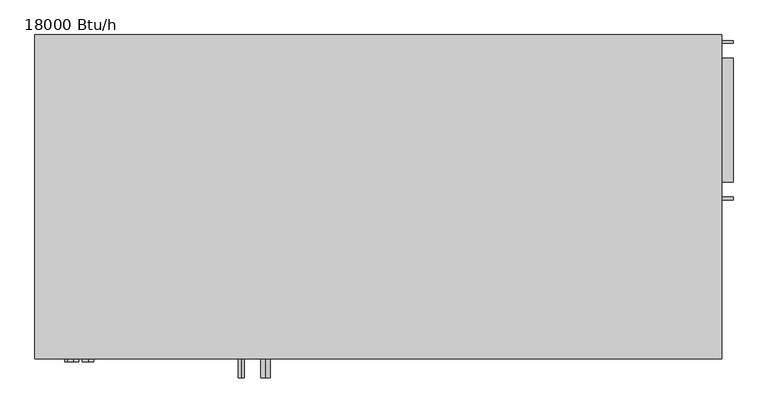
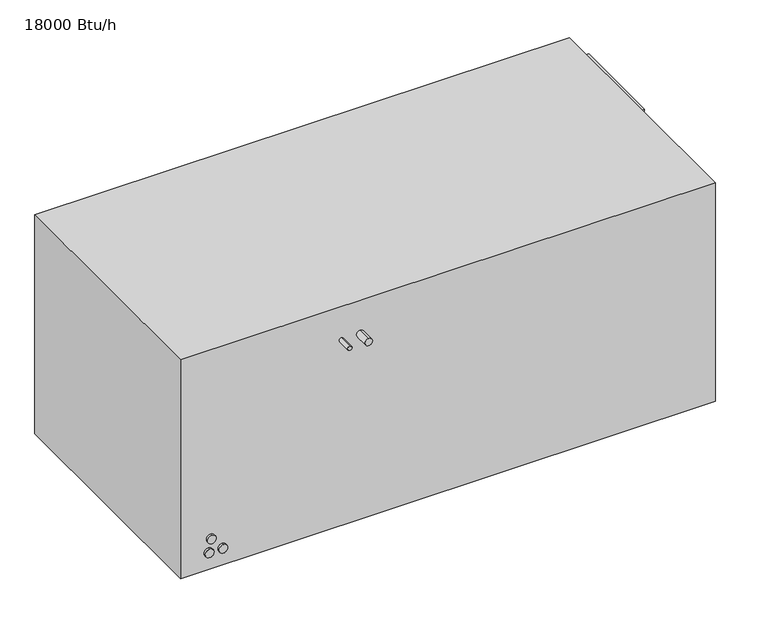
"""IFC4 building model written with IfcOpenShell, lengths in millimetres: proxy geometry, Lennox-VRF-Concealed_Vertical_Air_Handler-VVCA-2P_Series : 18000 Btu/h."""

import ifcopenshell
import ifcopenshell.guid

model = None  # the IFC model being written
_history = None  # IfcOwnerHistory: only IFC2X3 demands one
_inside = {}  # id of a spatial element -> (the spatial element, [elements in it])
_under = {}  # id of a project, library or spatial element -> (it, [spatial elements below it])
_declared = {}  # id of a project -> (the project, [libraries it declares])
_typed = {}  # id of a type object -> (the type object, [elements of that type])
_made_of = {}  # id of a material, layer set ... -> (it, [elements and type objects made of it])


def new_model(schema):
    """Start an empty IFC model of exactly this schema.

    Asked for "IFC4X3", IfcOpenShell would pick the latest addendum, in which some entities
    have other attributes; the version numbers below select the first issue.
    IFC2X3 requires an IfcOwnerHistory on every rooted entity: one is made here for all.
    """
    global model, _history
    if schema == "IFC4X3":
        model = ifcopenshell.file(schema_version=(4, 3, 0, 0))
    else:
        model = ifcopenshell.file(schema=schema)
    _inside.clear()
    _under.clear()
    _declared.clear()
    _typed.clear()
    _made_of.clear()
    _history = None
    if model.schema == "IFC2X3":
        org = make("IfcOrganization", Name="unknown")
        user = make(
            "IfcPersonAndOrganization",
            ThePerson=make("IfcPerson", FamilyName="unknown"),
            TheOrganization=org,
        )
        app = make(
            "IfcApplication",
            ApplicationDeveloper=org,
            Version="unknown",
            ApplicationFullName="unknown",
            ApplicationIdentifier="unknown",
        )
        _history = make(
            "IfcOwnerHistory",
            OwningUser=user,
            OwningApplication=app,
            ChangeAction="ADDED",
            CreationDate=0,
        )
    return model


def make(cls, **values):
    """One entity of the class cls with the attributes given. An attribute that is None is left unset."""
    return model.create_entity(
        cls, **{name: value for name, value in values.items() if value is not None}
    )


def rooted(cls, **values):
    """An entity with a GlobalId (a new one), such as an element, a storey or a relation."""
    return make(cls, GlobalId=ifcopenshell.guid.new(), OwnerHistory=_history, **values)


def si_unit(unit_type, name, prefix=None):
    """IfcSIUnit, for example si_unit("LENGTHUNIT", "METRE", prefix="MILLI")."""
    return make("IfcSIUnit", UnitType=unit_type, Prefix=prefix, Name=name)


def assignment(units):
    """IfcUnitAssignment: the units of a project."""
    return None if units is None else make("IfcUnitAssignment", Units=units)


def point(xyz):
    """IfcCartesianPoint."""
    return None if xyz is None else make("IfcCartesianPoint", Coordinates=xyz)


def direction(xyz):
    """IfcDirection."""
    return None if xyz is None else make("IfcDirection", DirectionRatios=xyz)


def frame(location, z_axis=None, x_axis=None):
    """IfcAxis2Placement3D, a coordinate frame: its origin and axes. An axis left out is left unset."""
    return make(
        "IfcAxis2Placement3D",
        Location=point(location),
        Axis=direction(z_axis),
        RefDirection=direction(x_axis),
    )


def frame_2d(location, x_axis=None):
    """IfcAxis2Placement2D, a coordinate frame in the plane: its origin and x axis."""
    return make(
        "IfcAxis2Placement2D", Location=point(location), RefDirection=direction(x_axis)
    )


def origin():
    """The frame at (0, 0, 0) with its axes left unset."""
    return frame((0.0, 0.0, 0.0))


def place(relative_to, where):
    """IfcLocalPlacement: puts the frame where relative to a parent placement (None: the world)."""
    return make(
        "IfcLocalPlacement", PlacementRelTo=relative_to, RelativePlacement=where
    )


def context(
    kind, dimensions, precision=None, world=None, true_north=None, identifier=None
):
    """IfcGeometricRepresentationContext, for example the 3D "Model" context."""
    return make(
        "IfcGeometricRepresentationContext",
        ContextIdentifier=identifier,
        ContextType=kind,
        CoordinateSpaceDimension=dimensions,
        Precision=precision,
        WorldCoordinateSystem=world,
        TrueNorth=true_north,
    )


def project(units=None, contexts=None):
    """IfcProject with its units and contexts."""
    return rooted(
        "IfcProject",
        Name="project",
        RepresentationContexts=contexts,
        UnitsInContext=assignment(units),
    )


def spatial(cls, under=None, at=None, **own):
    """A site, building, storey or space (cls), placed at a placement, below another one or the project."""
    s = rooted(cls, ObjectPlacement=at, **own)
    if under is not None:
        _under.setdefault(under.id(), (under, []))[1].append(s)
    return s


def polyline(points):
    """IfcPolyline through the points."""
    return make("IfcPolyline", Points=[point(p) for p in points])


def circle_curve(where, radius):
    """IfcCircle in the frame where."""
    return make("IfcCircle", Position=where, Radius=radius)


def trimmed(basis, trim1, trim2, sense, master):
    """IfcTrimmedCurve: the piece of a basis curve between two trims."""
    return make(
        "IfcTrimmedCurve",
        BasisCurve=basis,
        Trim1=trim1,
        Trim2=trim2,
        SenseAgreement=sense,
        MasterRepresentation=master,
    )


def segment(curve, same_sense, transition):
    """IfcCompositeCurveSegment."""
    return make(
        "IfcCompositeCurveSegment",
        Transition=transition,
        SameSense=same_sense,
        ParentCurve=curve,
    )


def composite_curve(segments, self_intersect=None):
    """IfcCompositeCurve: segments joined end to end."""
    return make("IfcCompositeCurve", Segments=segments, SelfIntersect=self_intersect)


def outline(outer, holes=None, kind="AREA"):
    """IfcArbitraryClosedProfileDef: a profile drawn as a closed curve; with holes, ...WithVoids."""
    if holes is None:
        return make("IfcArbitraryClosedProfileDef", ProfileType=kind, OuterCurve=outer)
    return make(
        "IfcArbitraryProfileDefWithVoids",
        ProfileType=kind,
        OuterCurve=outer,
        InnerCurves=holes,
    )


def extrude(swept, where, along, depth):
    """IfcExtrudedAreaSolid: the profile swept, set in the frame where, extruded along a direction by depth."""
    return make(
        "IfcExtrudedAreaSolid",
        SweptArea=swept,
        Position=where,
        ExtrudedDirection=direction(along),
        Depth=depth,
    )


def faces_of(points, faces, orient=None, outer=None):
    """IfcFace entities. A face is a list of loops; a loop is a list of indices into points, from 0.

    orient and outer hold one flag for each loop. By default every Orientation is true, the
    first loop of a face is its IfcFaceOuterBound and the others are IfcFaceBound.
    """
    made = []
    for i, loops in enumerate(faces):
        bounds = []
        for j, loop in enumerate(loops):
            is_outer = j == 0 if outer is None else outer[i][j]
            bounds.append(
                make(
                    "IfcFaceOuterBound" if is_outer else "IfcFaceBound",
                    Bound=make("IfcPolyLoop", Polygon=[points[k] for k in loop]),
                    Orientation=True if orient is None else orient[i][j],
                )
            )
        made.append(make("IfcFace", Bounds=bounds))
    return made


def faceted_brep(points, faces, orient=None, outer=None, voids=None):
    """IfcFacetedBrep: a solid bounded by flat faces; with voids (closed shells), ...WithVoids."""
    shared = [point(p) for p in points]
    hull = make("IfcClosedShell", CfsFaces=faces_of(shared, faces, orient, outer))
    if voids is None:
        return make("IfcFacetedBrep", Outer=hull)
    return make(
        "IfcFacetedBrepWithVoids",
        Outer=hull,
        Voids=[
            make(cls, CfsFaces=faces_of(shared, fs, o, b)) for cls, fs, o, b in voids
        ],
    )


def shape(context_of_items, identifier, shape_type, items):
    """IfcShapeRepresentation: the items that make up one representation, for example the "Body"."""
    return make(
        "IfcShapeRepresentation",
        ContextOfItems=context_of_items,
        RepresentationIdentifier=identifier,
        RepresentationType=shape_type,
        Items=items,
    )


def source(mapping_origin, context_of_items, identifier, shape_type, items):
    """IfcRepresentationMap: a shape defined once, which mapped items show again and again."""
    return make(
        "IfcRepresentationMap",
        MappingOrigin=mapping_origin,
        MappedRepresentation=shape(context_of_items, identifier, shape_type, items),
    )


def transform(
    local_origin,
    x_axis=None,
    y_axis=None,
    z_axis=None,
    scale=None,
    scale2=None,
    scale3=None,
    uniform=True,
):
    """IfcCartesianTransformationOperator3D, or its non-uniform kind. x_axis, y_axis, z_axis: its Axis1, 2, 3."""
    if uniform:
        return make(
            "IfcCartesianTransformationOperator3D",
            Axis1=direction(x_axis),
            Axis2=direction(y_axis),
            LocalOrigin=point(local_origin),
            Scale=scale,
            Axis3=direction(z_axis),
        )
    return make(
        "IfcCartesianTransformationOperator3DnonUniform",
        Axis1=direction(x_axis),
        Axis2=direction(y_axis),
        LocalOrigin=point(local_origin),
        Scale=scale,
        Axis3=direction(z_axis),
        Scale2=scale2,
        Scale3=scale3,
    )


def mapped(mapping_source, mapping_target):
    """IfcMappedItem: shows the shape of a source again, moved by a transform."""
    return make(
        "IfcMappedItem", MappingSource=mapping_source, MappingTarget=mapping_target
    )


def made_of(thing, what):
    """Note that an element or type object is made of a material, layer set ...; save() writes the relation."""
    if what is not None:
        _made_of.setdefault(what.id(), (what, []))[1].append(thing)
    return thing


def element(
    cls,
    number,
    at=None,
    inside=None,
    cuts=None,
    type_object=None,
    material=None,
    context=None,
    identifier="Body",
    shape_type=None,
    held_by="IfcProductDefinitionShape",
    body=None,
    shapes=None,
    **own,
):
    """One element of the class cls, such as IfcWall. Its Tag is "e" and its number.

    at: its placement. inside: the storey or other place that contains it. cuts: it is an
    opening in that element (IfcRelVoidsElement). A single representation is given by context,
    identifier, shape_type and body (its items); several are given by shapes. held_by: the class
    of the entity that holds the representations. save() writes the other relations.
    """
    e = rooted(cls, Tag="e%d" % number, ObjectPlacement=at, **own)
    if body is not None:
        shapes = [shape(context, identifier, shape_type, body)]
    if shapes is not None:
        e.Representation = make(held_by, Representations=shapes)
    if inside is not None:
        _inside.setdefault(inside.id(), (inside, []))[1].append(e)
    if cuts is not None:
        rooted(
            "IfcRelVoidsElement", RelatingBuildingElement=cuts, RelatedOpeningElement=e
        )
    if type_object is not None:
        _typed.setdefault(type_object.id(), (type_object, []))[1].append(e)
    return made_of(e, material)


def aggregate(whole, parts):
    """IfcRelAggregates: a whole, such as a stair, and the parts it consists of."""
    return rooted("IfcRelAggregates", RelatingObject=whole, RelatedObjects=parts)


def save(model, path):
    """Write the relations noted so far, then the file.

    IfcRelAggregates (storeys below a building ...), IfcRelContainedInSpatialStructure (elements
    in a storey), IfcRelDefinesByType, IfcRelAssociatesMaterial and IfcRelDeclares: one each for
    every whole, place, type object, material and project.
    """
    for whole, parts in _under.values():
        aggregate(whole, parts)
    for where, things in _inside.values():
        rooted(
            "IfcRelContainedInSpatialStructure",
            RelatedElements=things,
            RelatingStructure=where,
        )
    for kind, things in _typed.values():
        rooted("IfcRelDefinesByType", RelatedObjects=things, RelatingType=kind)
    for what, things in _made_of.values():
        rooted("IfcRelAssociatesMaterial", RelatedObjects=things, RelatingMaterial=what)
    for by, libraries in _declared.values():
        rooted("IfcRelDeclares", RelatingContext=by, RelatedDefinitions=libraries)
    model.write(path)


def proxy_18000_btu_h_5de70b9d(model_context):
    return source(origin(), model_context, "Body", "SolidModel", [
        extrude(outline(composite_curve([segment(trimmed(circle_curve(frame_2d((40.0, -530.5)), 9.525), [point((49.525, -530.5))], [point((30.475, -530.5))], False, "CARTESIAN"), True, "CONTINUOUS"), segment(trimmed(circle_curve(frame_2d((40.0, -530.5)), 9.525), [point((30.475, -530.5))], [point((49.525, -530.5))], False, "CARTESIAN"), True, "CONTINUOUS")], self_intersect=False)), frame((0.0, -279.5, 0.0), z_axis=(0.0, 1.0, 0.0), x_axis=(0.0, 0.0, 1.0)), (0.0, 0.0, 1.0), 5.0),
        extrude(outline(composite_curve([segment(trimmed(circle_curve(frame_2d((70.0, -525.5)), 9.525), [point((79.525, -525.5))], [point((60.475, -525.5))], False, "CARTESIAN"), True, "CONTINUOUS"), segment(trimmed(circle_curve(frame_2d((70.0, -525.5)), 9.525), [point((60.475, -525.5))], [point((79.525, -525.5))], False, "CARTESIAN"), True, "CONTINUOUS")], self_intersect=False)), frame((0.0, -279.5, 0.0), z_axis=(0.0, 1.0, 0.0), x_axis=(0.0, 0.0, 1.0)), (0.0, 0.0, 1.0), 5.0),
        extrude(outline(composite_curve([segment(trimmed(circle_curve(frame_2d((40.0, -500.5)), 9.525), [point((49.525, -500.5))], [point((30.475, -500.5))], False, "CARTESIAN"), True, "CONTINUOUS"), segment(trimmed(circle_curve(frame_2d((40.0, -500.5)), 9.525), [point((30.475, -500.5))], [point((49.525, -500.5))], False, "CARTESIAN"), True, "CONTINUOUS")], self_intersect=False)), frame((0.0, -279.5, 0.0), z_axis=(0.0, 1.0, 0.0), x_axis=(0.0, 0.0, 1.0)), (0.0, 0.0, 1.0), 5.0),
        extrude(outline(composite_curve([segment(trimmed(circle_curve(frame_2d((426.0, -241.5)), 4.7625), [point((430.7625, -241.5))], [point((421.2375, -241.5))], False, "CARTESIAN"), True, "CONTINUOUS"), segment(trimmed(circle_curve(frame_2d((426.0, -241.5)), 4.7625), [point((421.2375, -241.5))], [point((430.7625, -241.5))], False, "CARTESIAN"), True, "CONTINUOUS")], self_intersect=False)), frame((0.0, -306.5, 0.0), z_axis=(0.0, 1.0, 0.0), x_axis=(0.0, 0.0, 1.0)), (0.0, 0.0, 1.0), 32.0),
        extrude(outline(composite_curve([segment(trimmed(circle_curve(frame_2d((426.0, -200.5)), 7.9375), [point((433.9375, -200.5))], [point((418.0625, -200.5))], False, "CARTESIAN"), True, "CONTINUOUS"), segment(trimmed(circle_curve(frame_2d((426.0, -200.5)), 7.9375), [point((418.0625, -200.5))], [point((433.9375, -200.5))], False, "CARTESIAN"), True, "CONTINUOUS")], self_intersect=False)), frame((0.0, -306.5, 0.0), z_axis=(0.0, 1.0, 0.0), x_axis=(0.0, 0.0, 1.0)), (0.0, 0.0, 1.0), 32.0),
        extrude(outline(polyline([(590.5, 235.0), (590.5, 25.0), (571.5, 25.0), (571.5, 235.0), (590.5, 235.0)])), frame((0.0, 0.0, 478.0), z_axis=(0.0, 0.0, 1.0), x_axis=(1.0, 0.0, 0.0)), (0.0, 0.0, 1.0), 5.0),
        extrude(outline(polyline([(590.5, 235.0), (590.5, 25.0), (571.5, 25.0), (571.5, 235.0), (590.5, 235.0)])), frame((0.0, 0.0, 19.0), z_axis=(0.0, 0.0, 1.0), x_axis=(1.0, 0.0, 0.0)), (0.0, 0.0, 1.0), 5.0),
        extrude(outline(polyline([(590.5, 265.0), (590.5, 260.0), (571.5, 260.0), (571.5, 265.0), (590.5, 265.0)])), frame((0.0, 0.0, 49.0), z_axis=(0.0, 0.0, 1.0), x_axis=(1.0, 0.0, 0.0)), (0.0, 0.0, 1.0), 404.0),
        extrude(outline(polyline([(590.5, 0.0), (590.5, -5.0), (571.5, -5.0), (571.5, 0.0), (590.5, 0.0)])), frame((0.0, 0.0, 49.0), z_axis=(0.0, 0.0, 1.0), x_axis=(1.0, 0.0, 0.0)), (0.0, 0.0, 1.0), 404.0),
        faceted_brep([(571.5, 274.5, 0.0), (571.5, 274.5, 502.0), (571.5, -274.5, 502.0), (571.5, -274.5, 0.0), (571.5, 260.0, 478.0), (571.5, 260.0, 24.0), (571.5, 0.0, 24.0), (571.5, 0.0, 478.0), (-590.5, 274.5, 0.0), (-590.5, -274.5, 0.0), (-590.5, -274.5, 502.0), (-590.5, 274.5, 502.0), (551.5, 260.0, 24.0), (551.5, 260.0, 478.0), (551.5, 0.0, 478.0), (551.5, 0.0, 24.0)], [[[0, 1, 2, 3], [4, 5, 6, 7]], [[8, 9, 10, 11]], [[1, 0, 8, 11]], [[2, 1, 11, 10]], [[3, 2, 10, 9]], [[0, 3, 9, 8]], [[12, 13, 14, 15]], [[13, 12, 5, 4]], [[14, 13, 4, 7]], [[15, 14, 7, 6]], [[12, 15, 6, 5]]]),
    ])


if __name__ == "__main__":
    model = new_model("IFC4")
    model_context = context("Model", 3, world=origin())
    ifc_project = project(units=[si_unit("LENGTHUNIT", "METRE", prefix="MILLI")], contexts=[model_context])
    site = spatial("IfcSite", under=ifc_project)
    building = spatial("IfcBuilding", under=site)
    placement = place(None, origin())
    proxy_18000_btu_h_shape = proxy_18000_btu_h_5de70b9d(model_context)
    element("IfcBuildingElementProxy", 1, Name="Lennox-VRF-Concealed_Vertical_Air_Handler-VVCA-2P_Series : 18000 Btu/h", ObjectType="Lennox-VRF-Concealed_Vertical_Air_Handler-VVCA-2P_Series : 18000 Btu/h", at=placement, inside=building, context=model_context, shape_type="MappedRepresentation", body=[
        mapped(proxy_18000_btu_h_shape, transform((0.0, 0.0, 0.0), x_axis=(1.0, 0.0, 0.0), y_axis=(0.0, 1.0, 0.0), z_axis=(0.0, 0.0, 1.0))),
    ])
    save(model, "model.ifc")
